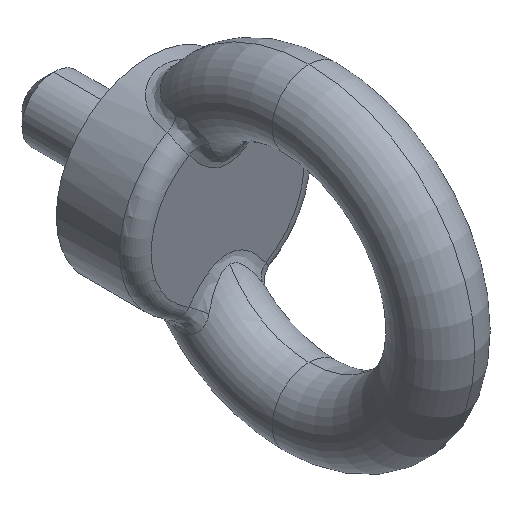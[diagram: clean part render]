
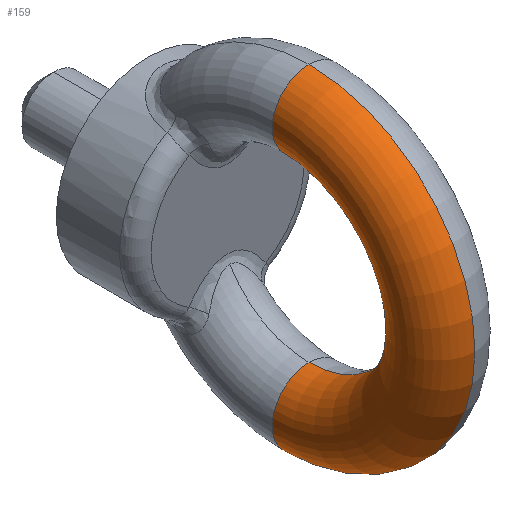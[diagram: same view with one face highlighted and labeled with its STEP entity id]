
A CAD part, isometric view. The second image highlights one B-rep face of the part: STEP entity #159.
In plain terms, the highlighted toroidal (fillet/blend) face has major radius 24.5 mm and minor radius 7 mm.
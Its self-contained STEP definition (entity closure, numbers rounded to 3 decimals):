
#159=ADVANCED_FACE('',(#430),#431,.T.);
#430=FACE_OUTER_BOUND('',#824,.T.);
#431=TOROIDAL_SURFACE('',#825,24.5,7.0);
#824=EDGE_LOOP('',(#1781,#1782,#1783,#1784));
#825=AXIS2_PLACEMENT_3D('',#1785,#1786,#1787);
#1781=ORIENTED_EDGE('',*,*,#2800,.F.);
#1782=ORIENTED_EDGE('',*,*,#2801,.T.);
#1783=ORIENTED_EDGE('',*,*,#2802,.F.);
#1784=ORIENTED_EDGE('',*,*,#2803,.T.);
#1785=CARTESIAN_POINT('',(0.0,0.0,0.0));
#1786=DIRECTION('',(1.0,0.0,0.0));
#1787=DIRECTION('',(0.0,0.0,-1.0));
#2800=EDGE_CURVE('',#3257,#3258,#3259,.T.);
#2801=EDGE_CURVE('',#3257,#3260,#3261,.T.);
#2802=EDGE_CURVE('',#3262,#3260,#3263,.T.);
#2803=EDGE_CURVE('',#3262,#3258,#3264,.T.);
#3257=VERTEX_POINT('',#3930);
#3258=VERTEX_POINT('',#3931);
#3259=CIRCLE('',#3932,31.5);
#3260=VERTEX_POINT('',#3933);
#3261=CIRCLE('',#3934,7.0);
#3262=VERTEX_POINT('',#3935);
#3263=CIRCLE('',#3936,17.5);
#3264=CIRCLE('',#3937,7.0);
#3930=CARTESIAN_POINT('',(0.,0.,31.5));
#3931=CARTESIAN_POINT('',(0.,0.,-31.5));
#3932=AXIS2_PLACEMENT_3D('',#5602,#5603,#5604);
#3933=CARTESIAN_POINT('',(0.,0.,17.5));
#3934=AXIS2_PLACEMENT_3D('',#5605,#5606,#5607);
#3935=CARTESIAN_POINT('',(0.,0.,-17.5));
#3936=AXIS2_PLACEMENT_3D('',#5608,#5609,#5610);
#3937=AXIS2_PLACEMENT_3D('',#5611,#5612,#5613);
#5602=CARTESIAN_POINT('',(0.,0.0,0.0));
#5603=DIRECTION('',(1.0,0.0,0.0));
#5604=DIRECTION('',(0.0,0.0,-1.0));
#5605=CARTESIAN_POINT('',(0.0,0.,24.5));
#5606=DIRECTION('',(0.0,-1.0,0.));
#5607=DIRECTION('',(0.0,0.,1.0));
#5608=CARTESIAN_POINT('',(0.,0.0,0.0));
#5609=DIRECTION('',(-1.0,-0.0,-0.0));
#5610=DIRECTION('',(0.0,0.0,-1.0));
#5611=CARTESIAN_POINT('',(0.0,0.,-24.5));
#5612=DIRECTION('',(0.0,-1.0,0.));
#5613=DIRECTION('',(0.0,0.,-1.0));
